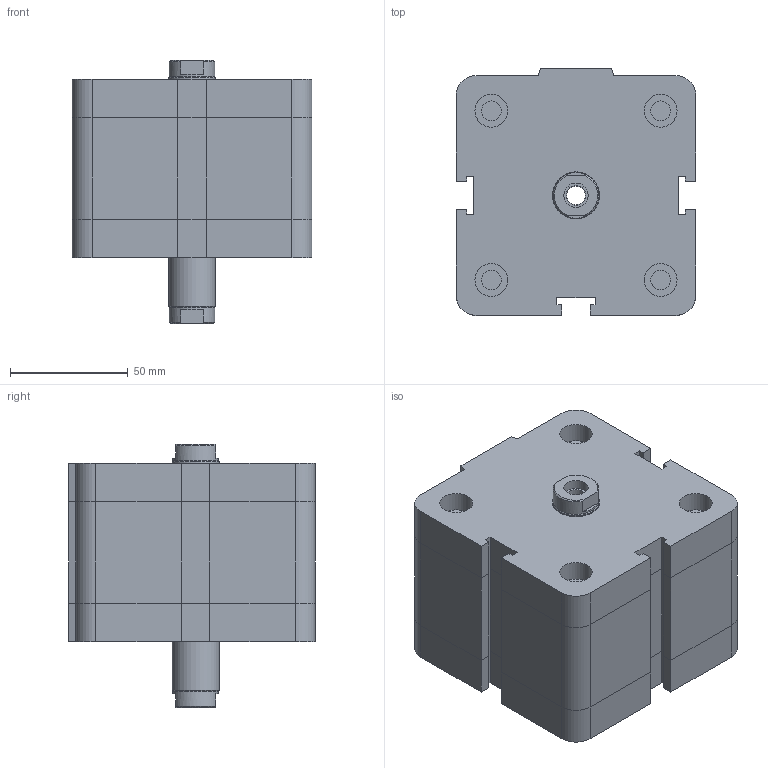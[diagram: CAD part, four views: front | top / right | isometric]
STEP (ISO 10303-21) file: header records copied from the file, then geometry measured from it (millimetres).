
FILE_DESCRIPTION((''),'2;1');
FILE_NAME('I:\Area Tecnica\Disegni\VARIE-3D\Componenti\EUROPE\15##_###_####_06_#\1561_80_0020_06_1.iam.stp','2009-04-20T15:06:44',(''),(''),'Autodesk Inventor 2009','Autodesk Inventor 2009','');
FILE_SCHEMA(('AUTOMOTIVE_DESIGN { 1 0 10303 214 1 1 1 1 }'));
Length unit declared in the file: millimetre
Products named in the file (3): 1561_80_0020_06_1; 1561_80_0020_03_1_C; 1561_80_0020_06_1_S
Assembly tree (2 placements, depth 2):
  1561_80_0020_06_1
    1561_80_0020_03_1_C
    1561_80_0020_06_1_S
Bounding box: 102 x 105 x 112 mm (x, y, z)
Volume: 756585.7 mm3; surface area: 76947.4 mm2
Topology: 2 solids, 2 shells, 175 faces, 382 edges, 233 vertices
Faces by surface type: plane 114, bspline 30, cylinder 25, cone 6
Full cylindrical faces by diameter (mm): 8.376 x5, 10.3 x1, 14 x4, 19.5 x2, 20 x1
Entity records: 4805 total; most frequent: CARTESIAN_POINT 1042, DIRECTION 712, ORIENTED_EDGE 680, EDGE_CURVE 340, VECTOR 252, LINE 252, AXIS2_PLACEMENT_3D 230, EDGE_LOOP 230
